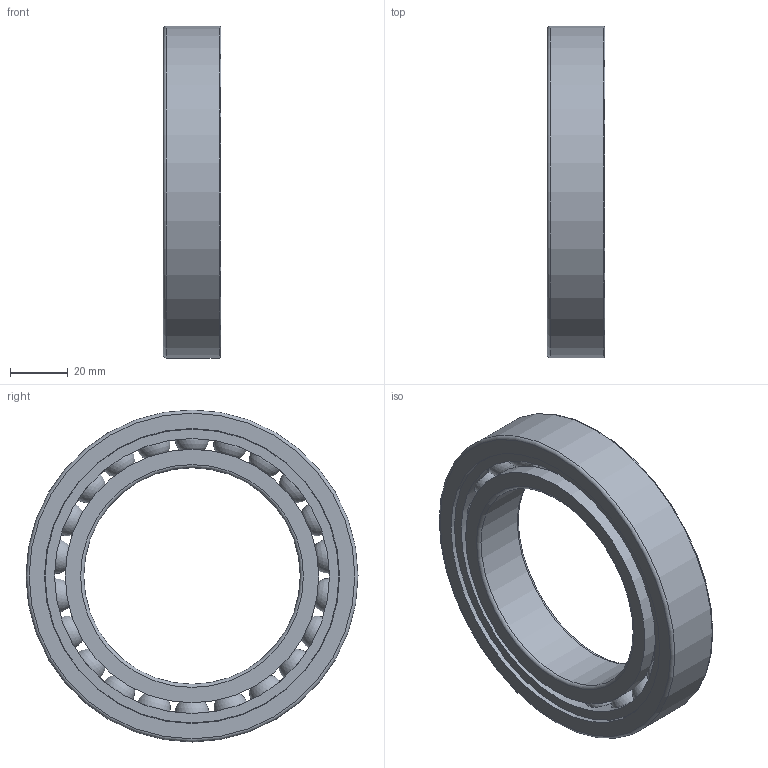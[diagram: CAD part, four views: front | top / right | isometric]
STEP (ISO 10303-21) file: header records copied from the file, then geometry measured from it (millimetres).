
FILE_DESCRIPTION(/* description */ (''),/* implementation_level */ '2;1');
FILE_NAME(/* name */ 'S_6015_TA.step',/* time_stamp */ '2013-03-06T14:43:37+01:00',/* author */ ('Marian'),/* organization */ ('GMN'),/* preprocessor_version */ 'ST-DEVELOPER v11',/* originating_system */ 'SIEMENS UGS NX 6.0',/* authorisation */ '');
FILE_SCHEMA (('CONFIG_CONTROL_DESIGN'));
Length unit declared in the file: millimetre
Products named in the file (1): S_6015_TA
Bounding box: 20 x 115 x 115 mm (x, y, z)
Volume: 89836.4 mm3; surface area: 51019.8 mm2
Topology: 25 solids, 25 shells, 64 faces, 170 edges, 110 vertices
Faces by surface type: cylinder 29, sphere 22, torus 6, plane 6, cone 1
Full cylindrical faces by diameter (mm): 12.106 x22, 75 x1, 87.8 x2, 95.246 x1, 101.8 x1, 102.2 x1, 115 x1
Entity records: 2126 total; most frequent: CARTESIAN_POINT 963, DIRECTION 170, FACE_BOUND 150, EDGE_LOOP 128, ORIENTED_EDGE 128, VERTEX_POINT 86, AXIS2_PLACEMENT_3D 85, EDGE_CURVE 64
